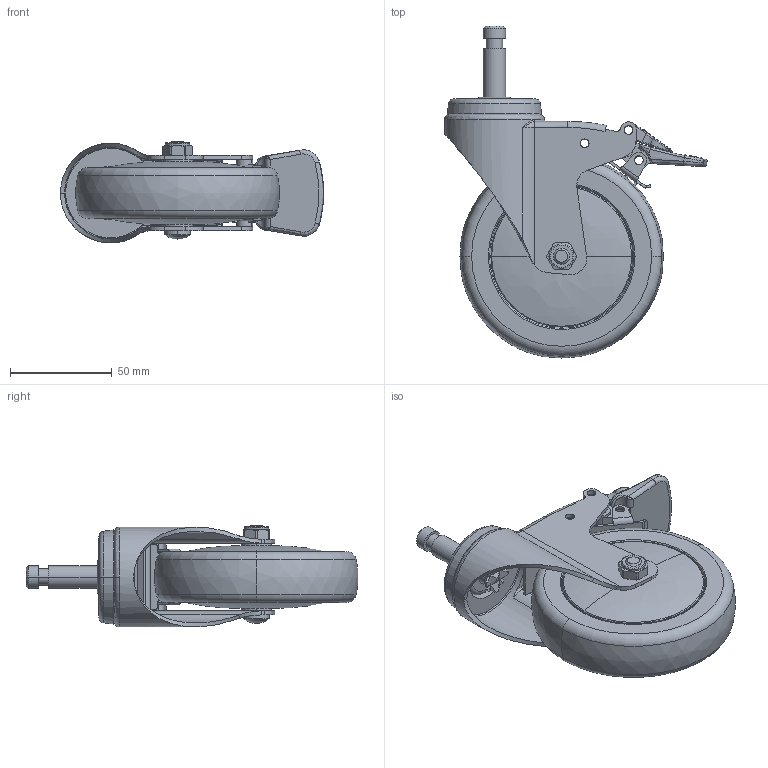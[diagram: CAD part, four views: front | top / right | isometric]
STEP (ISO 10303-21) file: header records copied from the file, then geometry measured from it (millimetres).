
FILE_DESCRIPTION((''),'2;1');
FILE_NAME('37164H_ASM','2026-07-14T',('Lenovo'),(''),'PRO/ENGINEER BY PARAMETRIC TECHNOLOGY CORPORATION, 2010280','PRO/ENGINEER BY PARAMETRIC TECHNOLOGY CORPORATION, 2010280','');
FILE_SCHEMA(('CONFIG_CONTROL_DESIGN'));
Length unit declared in the file: millimetre
Products named in the file (11): 3714-321; 350-25; 360-03; 370-64; 371-64; 3714-401; 374-907; 374-69A; 350-33A; 300-34; 37164H_ASM
Assembly tree (11 placements, depth 2):
  37164H_ASM
    3714-321
    350-25
    360-03
    370-64
    371-64
    3714-401
    374-907
    374-69A  x2
    350-33A
    300-34
Bounding box: 129.04 x 162.9 x 49.97 mm (x, y, z)
Volume: 188398.6 mm3; surface area: 93306.9 mm2
Topology: 11 solids, 11 shells, 806 faces, 2012 edges, 1257 vertices
Faces by surface type: plane 342, cylinder 206, bspline 121, torus 83, cone 52, sphere 2
Entity records: 30221 total; most frequent: CARTESIAN_POINT 12055, ORIENTED_EDGE 3888, DIRECTION 3530, EDGE_CURVE 1944, AXIS2_PLACEMENT_3D 1293, VERTEX_POINT 1219, VECTOR 944, LINE 944
